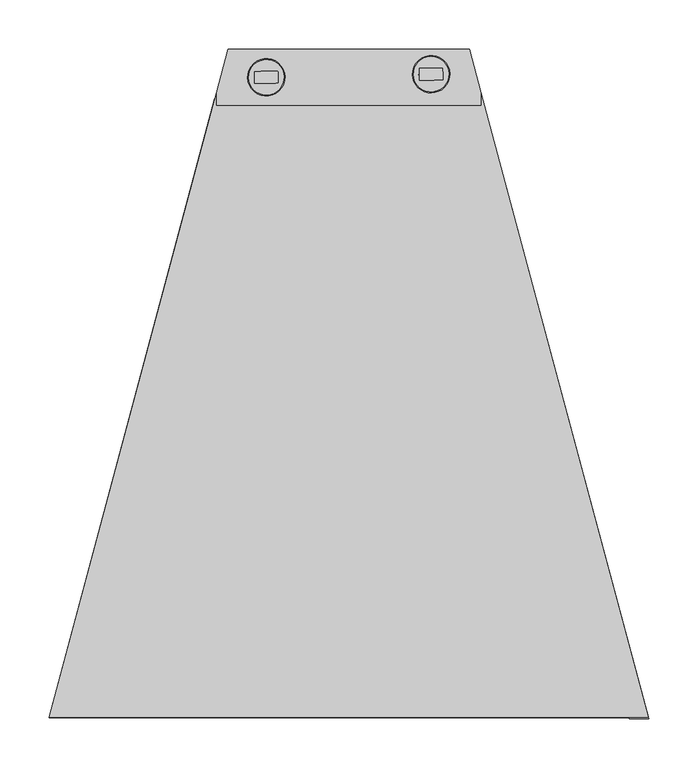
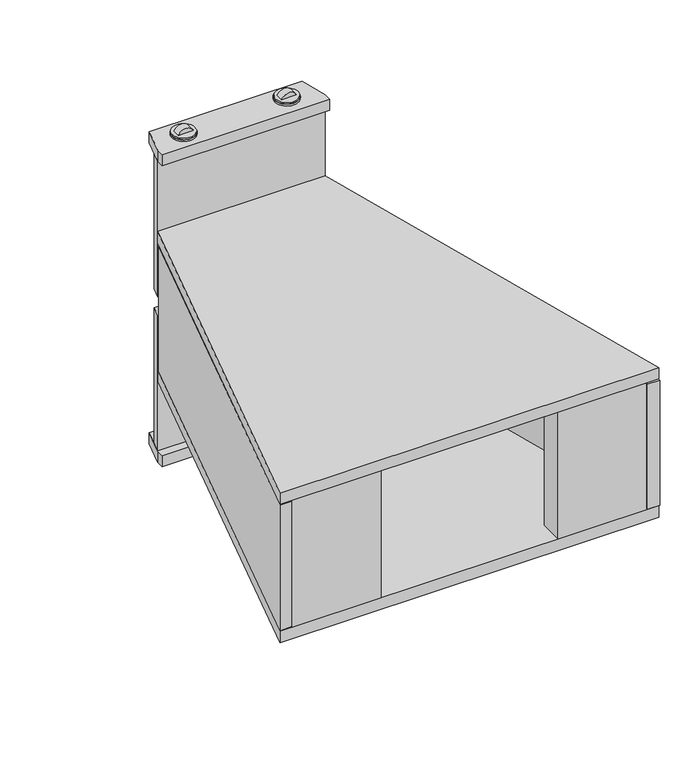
"""IFC4 building model written with IfcOpenShell, lengths in millimetres: proxy geometry, FOUNDATION^TABLE 5_MOBILE WIRE TOWER-ASSEMBLY."""

from ifc_helpers import new_model, si_unit, frame, origin, origin_with_axes, place, context, project, spatial, polyline, circle_curve, outline, extrude, source, transform, mapped, element, save
from ifc_brep_helpers import plane_surface, cylinder_surface, revolved_surface, advanced_brep


def generic_models_fc71b6cc(model_context):
    return source(origin(), model_context, "Body", "SolidModel", [
        extrude(outline(polyline([(427.5419212, 679.45), (439.4522628, 635.0), (439.4522628, 622.3), (170.1477372, 622.3), (170.1477372, 635.0), (182.0580788, 679.45), (427.5419212, 679.45)])), frame((0.0, 0.0, -138.1125), z_axis=(0.0, 0.0, 1.0), x_axis=(1.0, 0.0, 0.0)), (0.0, 0.0, 1.0), 19.05),
        extrude(outline(polyline([(439.4522628, 635.0), (609.6, 0.0), (0.0, 0.0), (170.1477372, 635.0), (439.4522628, 635.0)])), frame((0.0, 0.0, 234.95), z_axis=(0.0, 0.0, 1.0), x_axis=(1.0, 0.0, 0.0)), (0.0, 0.0, 1.0), 19.05),
        extrude(outline(polyline([(590.2258474, -1.298226), (423.0427354, 622.6376422), (441.4436224, 627.568145), (609.9478586, -1.298226), (590.2258474, -1.298226)])), frame((0.0, 0.0, 20.6375), z_axis=(0.0, 0.0, 1.0), x_axis=(1.0, 0.0, 0.0)), (0.0, 0.0, 1.0), 212.725),
        extrude(outline(polyline([(441.9429961, 552.1009087), (423.5421091, 547.1704059), (417.7898559, 568.6381074), (436.1907429, 573.5686102), (441.9429961, 552.1009087)])), frame((0.0, 0.0, 19.05), z_axis=(0.0, 0.0, 1.0), x_axis=(1.0, 0.0, 0.0)), (0.0, 0.0, 1.0), 12.7),
        advanced_brep(
        [(406.6490379, 654.3907169, 395.1125), (406.6490379, 654.3907169, 397.1125), (370.6554878, 653.7092831, 397.1125), (370.6554878, 653.7092831, 395.1125), (407.6488587, 654.4096456, 392.1125), (407.6488587, 654.4096456, 395.1125), (369.6556669, 653.6903544, 395.1125), (369.6556669, 653.6903544, 392.1125)],
        [
            (0, 1),
            (1, 2, circle_curve(frame((388.6522628, 654.05, 397.1125), z_axis=(0.0, 0.0, -1.000000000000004), x_axis=(0.999820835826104, 0.018928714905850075, 0.0)), 18.0)),
            (2, 3),
            (3, 0, circle_curve(frame((388.6522628, 654.05, 395.1125), z_axis=(0.0, 0.0, 1.000000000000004), x_axis=(0.999820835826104, 0.018928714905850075, 0.0)), 18.0)),
            (4, 5),
            (5, 6, circle_curve(frame((388.6522628, 654.05, 395.1125), z_axis=(0.0, 0.0, -1.000000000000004), x_axis=(0.999820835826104, 0.018928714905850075, 0.0)), 19.0)),
            (6, 7),
            (7, 4, circle_curve(frame((388.6522628, 654.05, 392.1125), z_axis=(0.0, 0.0, 1.000000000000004), x_axis=(0.999820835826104, 0.018928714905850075, 0.0)), 19.0)),
            (1, 2, circle_curve(frame((388.6522628, 654.05, 397.1125), z_axis=(0.0, 0.0, 1.000000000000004), x_axis=(0.999820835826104, 0.018928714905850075, 0.0)), 18.0)),
            (7, 4, circle_curve(frame((388.6522628, 654.05, 392.1125), z_axis=(0.0, 0.0, -1.000000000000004), x_axis=(0.999820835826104, 0.018928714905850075, 0.0)), 19.0)),
            (6, 5, circle_curve(frame((388.6522628, 654.05, 395.1125), z_axis=(0.0, 0.0, -1.000000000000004), x_axis=(0.999820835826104, 0.018928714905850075, 0.0)), 19.0)),
            (0, 3, circle_curve(frame((388.6522628, 654.05, 395.1125), z_axis=(0.0, 0.0, 1.000000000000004), x_axis=(0.999820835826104, 0.018928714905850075, 0.0)), 18.0)),
        ],
        [
            cylinder_surface(frame((388.6522628, 654.05, 395.8625), z_axis=(0.0, 0.0, 1.000000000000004), x_axis=(0.999820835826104, 0.018928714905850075, 0.0)), 18.0),
            cylinder_surface(frame((388.6522628, 654.05, 393.6125), z_axis=(0.0, 0.0, 1.000000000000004), x_axis=(0.999820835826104, 0.018928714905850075, 0.0)), 19.0),
            plane_surface(frame((388.6522628, 654.05, 397.1125), z_axis=(0.0, 0.0, 1.000000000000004), x_axis=(0.999820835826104, 0.018928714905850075, 0.0))),
            plane_surface(frame((388.6522628, 654.05, 392.1125), z_axis=(0.0, 0.0, -1.000000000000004), x_axis=(-0.999820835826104, -0.018928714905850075, 0.0))),
            plane_surface(frame((388.6522628, 654.05, 395.1125), z_axis=(0.0, 0.0, 1.000000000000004), x_axis=(0.999820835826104, 0.018928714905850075, 0.0))),
        ],
        [
            (0, [[1, 2, 3, 4]]),
            (1, [[5, 6, 7, 8]]),
            (2, [[-2, 9]]),
            (3, [[10, -8]]),
            (1, [[-5, -10, -7, 11]]),
            (0, [[-1, 12, -3, -9]]),
            (4, [[-6, -11], [-12, -4]]),
        ],
    ),
        advanced_brep(
        [(393.0094912, 661.6338355, 391.6125), (393.0378843, 660.1341042, 391.6125), (384.0394968, 659.9637458, 391.6125), (384.0111037, 661.4634771, 391.6125), (393.2650289, 648.1362542, 391.6125), (393.2934219, 646.6365229, 391.6125), (384.2950344, 646.4661645, 391.6125), (384.2666413, 647.9658958, 391.6125), (402.0362718, 660.3044627, 391.6125), (402.2634164, 648.3066126, 391.6125), (375.2682538, 647.7955373, 391.6125), (375.0411092, 659.7933874, 391.6125)],
        [
            (0, 1),
            (1, 2, circle_curve(frame((388.5386905, 660.048925, 391.6125), z_axis=(-0.018928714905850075, 0.999820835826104, 0.0), x_axis=(0.999820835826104, 0.018928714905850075, 0.0)), 4.5)),
            (2, 3),
            (3, 0, circle_curve(frame((388.5102974, 661.5486563, 391.6125), z_axis=(0.018928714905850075, -0.999820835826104, 0.0), x_axis=(0.999820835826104, 0.018928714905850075, 0.0)), 4.5)),
            (4, 5),
            (5, 6, circle_curve(frame((388.7942282, 646.5513437, 391.6125), z_axis=(-0.018928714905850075, 0.999820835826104, 0.0), x_axis=(0.999820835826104, 0.018928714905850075, 0.0)), 4.5)),
            (6, 7),
            (7, 4, circle_curve(frame((388.7658351, 648.051075, 391.6125), z_axis=(0.018928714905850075, -0.999820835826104, 0.0), x_axis=(0.999820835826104, 0.018928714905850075, 0.0)), 4.5)),
            (8, 9),
            (9, 10, circle_curve(frame((388.7658351, 648.051075, 391.6125), z_axis=(-0.018928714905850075, 0.999820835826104, 0.0), x_axis=(0.999820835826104, 0.018928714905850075, 0.0)), 13.5)),
            (10, 11),
            (11, 8, circle_curve(frame((388.5386905, 660.048925, 391.6125), z_axis=(0.018928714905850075, -0.999820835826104, 0.0), x_axis=(0.999820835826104, 0.018928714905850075, 0.0)), 13.5)),
            (9, 10, circle_curve(frame((388.7658351, 648.051075, 391.6125), z_axis=(0.018928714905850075, -0.999820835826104, 0.0), x_axis=(0.999820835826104, 0.018928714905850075, 0.0)), 13.5)),
            (7, 4, circle_curve(frame((388.7658351, 648.051075, 391.6125), z_axis=(-0.018928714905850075, 0.999820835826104, 0.0), x_axis=(0.999820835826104, 0.018928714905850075, 0.0)), 4.5)),
            (11, 8, circle_curve(frame((388.5386905, 660.048925, 391.6125), z_axis=(-0.018928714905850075, 0.999820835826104, 0.0), x_axis=(0.999820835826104, 0.018928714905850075, 0.0)), 13.5)),
            (1, 2, circle_curve(frame((388.5386905, 660.048925, 391.6125), z_axis=(0.018928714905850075, -0.999820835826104, 0.0), x_axis=(0.999820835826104, 0.018928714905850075, 0.0)), 4.5)),
            (5, 6, circle_curve(frame((388.7942282, 646.5513437, 391.6125), z_axis=(0.018928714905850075, -0.999820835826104, 0.0), x_axis=(0.999820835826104, 0.018928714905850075, 0.0)), 4.5)),
            (3, 0, circle_curve(frame((388.5102974, 661.5486563, 391.6125), z_axis=(-0.018928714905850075, 0.999820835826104, 0.0), x_axis=(0.999820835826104, 0.018928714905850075, 0.0)), 4.5)),
        ],
        [
            cylinder_surface(frame((388.6522628, 654.05, 391.6125), z_axis=(0.018928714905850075, -0.999820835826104, 0.0), x_axis=(0.999820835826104, 0.018928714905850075, 0.0)), 4.5),
            cylinder_surface(frame((388.6522628, 654.05, 391.6125), z_axis=(0.018928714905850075, -0.999820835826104, 0.0), x_axis=(0.999820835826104, 0.018928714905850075, 0.0)), 13.5),
            plane_surface(frame((388.7658351, 648.051075, 391.6125), z_axis=(0.018928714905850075, -0.999820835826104, 0.0), x_axis=(0.999820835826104, 0.018928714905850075, 0.0))),
            plane_surface(frame((388.5386905, 660.048925, 391.6125), z_axis=(-0.018928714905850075, 0.999820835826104, 0.0), x_axis=(-0.999820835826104, -0.018928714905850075, 0.0))),
            plane_surface(frame((388.7942282, 646.5513437, 391.6125), z_axis=(0.018928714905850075, -0.999820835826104, 0.0), x_axis=(0.999820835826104, 0.018928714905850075, 0.0))),
            plane_surface(frame((388.5102974, 661.5486563, 391.6125), z_axis=(-0.018928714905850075, 0.999820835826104, 0.0), x_axis=(-0.999820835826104, -0.018928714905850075, 0.0))),
        ],
        [
            (0, [[1, 2, 3, 4]]),
            (0, [[5, 6, 7, 8]]),
            (1, [[9, 10, 11, 12]]),
            (2, [[-10, 13], [-8, 14]]),
            (3, [[15, -12], [16, -2]]),
            (4, [[-6, 17]]),
            (5, [[18, -4]]),
            (1, [[-9, -15, -11, -13]]),
            (0, [[-5, -14, -7, -17]]),
            (0, [[-1, -18, -3, -16]]),
        ],
    ),
        extrude(outline(polyline([(173.4092571, 573.5686102), (191.8101441, 568.6381074), (186.0578909, 547.1704059), (167.6570039, 552.1009087), (173.4092571, 573.5686102)])), frame((0.0, 0.0, 19.05), z_axis=(0.0, 0.0, 1.0), x_axis=(1.0, 0.0, 0.0)), (0.0, 0.0, 1.0), 12.7),
        extrude(outline(polyline([(19.7220112, 0.0), (29.9308755, 38.1), (162.6088642, 38.1), (162.6088642, 0.0), (19.7220112, 0.0)])), frame((0.0, 0.0, 19.05), z_axis=(0.0, 0.0, 1.0), x_axis=(1.0, 0.0, 0.0)), (0.0, 0.0, 1.0), 215.9),
        advanced_brep(
        [(202.9509621, 650.5342831, -141.1125), (202.9509621, 650.5342831, -143.1125), (238.9445122, 651.2157169, -143.1125), (238.9445122, 651.2157169, -141.1125), (201.9511413, 650.5153544, -138.1125), (201.9511413, 650.5153544, -141.1125), (239.9443331, 651.2346456, -141.1125), (239.9443331, 651.2346456, -138.1125)],
        [
            (0, 1),
            (1, 2, circle_curve(frame((220.9477372, 650.875, -143.1125), z_axis=(0.0, 0.0, 1.0000000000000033), x_axis=(-0.9998208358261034, -0.018928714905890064, 0.0)), 18.0)),
            (2, 3),
            (3, 0, circle_curve(frame((220.9477372, 650.875, -141.1125), z_axis=(0.0, 0.0, -1.0000000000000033), x_axis=(-0.9998208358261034, -0.018928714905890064, 0.0)), 18.0)),
            (4, 5),
            (5, 6, circle_curve(frame((220.9477372, 650.875, -141.1125), z_axis=(0.0, 0.0, 1.0000000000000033), x_axis=(-0.9998208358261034, -0.018928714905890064, 0.0)), 19.0)),
            (6, 7),
            (7, 4, circle_curve(frame((220.9477372, 650.875, -138.1125), z_axis=(0.0, 0.0, -1.0000000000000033), x_axis=(-0.9998208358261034, -0.018928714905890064, 0.0)), 19.0)),
            (1, 2, circle_curve(frame((220.9477372, 650.875, -143.1125), z_axis=(0.0, 0.0, -1.0000000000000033), x_axis=(-0.9998208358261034, -0.018928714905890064, 0.0)), 18.0)),
            (7, 4, circle_curve(frame((220.9477372, 650.875, -138.1125), z_axis=(0.0, 0.0, 1.0000000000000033), x_axis=(-0.9998208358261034, -0.018928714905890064, 0.0)), 19.0)),
            (6, 5, circle_curve(frame((220.9477372, 650.875, -141.1125), z_axis=(0.0, 0.0, 1.0000000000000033), x_axis=(-0.9998208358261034, -0.018928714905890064, 0.0)), 19.0)),
            (0, 3, circle_curve(frame((220.9477372, 650.875, -141.1125), z_axis=(0.0, 0.0, -1.0000000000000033), x_axis=(-0.9998208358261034, -0.018928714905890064, 0.0)), 18.0)),
        ],
        [
            cylinder_surface(frame((220.9477372, 650.875, -141.8625), z_axis=(0.0, 0.0, -1.0000000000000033), x_axis=(-0.9998208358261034, -0.018928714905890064, 0.0)), 18.0),
            cylinder_surface(frame((220.9477372, 650.875, -139.6125), z_axis=(0.0, 0.0, -1.0000000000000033), x_axis=(-0.9998208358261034, -0.018928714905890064, 0.0)), 19.0),
            plane_surface(frame((220.9477372, 650.875, -143.1125), z_axis=(0.0, 0.0, -1.0000000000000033), x_axis=(-0.9998208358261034, -0.018928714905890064, 0.0))),
            plane_surface(frame((220.9477372, 650.875, -138.1125), z_axis=(0.0, 0.0, 1.0000000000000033), x_axis=(0.9998208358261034, 0.018928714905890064, 0.0))),
            plane_surface(frame((220.9477372, 650.875, -141.1125), z_axis=(0.0, 0.0, -1.0000000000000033), x_axis=(-0.9998208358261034, -0.018928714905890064, 0.0))),
        ],
        [
            (0, [[1, 2, 3, 4]]),
            (1, [[5, 6, 7, 8]]),
            (2, [[-2, 9]]),
            (3, [[10, -8]]),
            (1, [[-5, -10, -7, 11]]),
            (0, [[-1, 12, -3, -9]]),
            (4, [[-6, -11], [-12, -4]]),
        ],
    ),
        advanced_brep(
        [(216.3065781, 658.2884771, -137.6125), (216.3349711, 656.7887458, -137.6125), (225.3333587, 656.9591042, -137.6125), (225.3049656, 658.4588355, -137.6125), (216.5621157, 644.7908958, -137.6125), (216.5905088, 643.2911645, -137.6125), (225.5888963, 643.4615229, -137.6125), (225.5605032, 644.9612542, -137.6125), (207.3365836, 656.6183874, -137.6125), (207.5637282, 644.6205373, -137.6125), (234.5588908, 645.1316126, -137.6125), (234.3317462, 657.1294627, -137.6125)],
        [
            (0, 1),
            (1, 2, circle_curve(frame((220.8341649, 656.873925, -137.6125), z_axis=(-0.018928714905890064, 0.9998208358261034, 0.0), x_axis=(-0.9998208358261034, -0.018928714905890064, 0.0)), 4.5)),
            (2, 3),
            (3, 0, circle_curve(frame((220.8057718, 658.3736563, -137.6125), z_axis=(0.018928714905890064, -0.9998208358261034, 0.0), x_axis=(-0.9998208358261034, -0.018928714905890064, 0.0)), 4.5)),
            (4, 5),
            (5, 6, circle_curve(frame((221.0897026, 643.3763437, -137.6125), z_axis=(-0.018928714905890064, 0.9998208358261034, 0.0), x_axis=(-0.9998208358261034, -0.018928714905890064, 0.0)), 4.5)),
            (6, 7),
            (7, 4, circle_curve(frame((221.0613095, 644.876075, -137.6125), z_axis=(0.018928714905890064, -0.9998208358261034, 0.0), x_axis=(-0.9998208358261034, -0.018928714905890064, 0.0)), 4.5)),
            (8, 9),
            (9, 10, circle_curve(frame((221.0613095, 644.876075, -137.6125), z_axis=(-0.018928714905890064, 0.9998208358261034, 0.0), x_axis=(-0.9998208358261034, -0.018928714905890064, 0.0)), 13.5)),
            (10, 11),
            (11, 8, circle_curve(frame((220.8341649, 656.873925, -137.6125), z_axis=(0.018928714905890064, -0.9998208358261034, 0.0), x_axis=(-0.9998208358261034, -0.018928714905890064, 0.0)), 13.5)),
            (9, 10, circle_curve(frame((221.0613095, 644.876075, -137.6125), z_axis=(0.018928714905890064, -0.9998208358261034, 0.0), x_axis=(-0.9998208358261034, -0.018928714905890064, 0.0)), 13.5)),
            (7, 4, circle_curve(frame((221.0613095, 644.876075, -137.6125), z_axis=(-0.018928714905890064, 0.9998208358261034, 0.0), x_axis=(-0.9998208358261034, -0.018928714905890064, 0.0)), 4.5)),
            (11, 8, circle_curve(frame((220.8341649, 656.873925, -137.6125), z_axis=(-0.018928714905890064, 0.9998208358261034, 0.0), x_axis=(-0.9998208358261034, -0.018928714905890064, 0.0)), 13.5)),
            (1, 2, circle_curve(frame((220.8341649, 656.873925, -137.6125), z_axis=(0.018928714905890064, -0.9998208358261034, 0.0), x_axis=(-0.9998208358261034, -0.018928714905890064, 0.0)), 4.5)),
            (5, 6, circle_curve(frame((221.0897026, 643.3763437, -137.6125), z_axis=(0.018928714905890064, -0.9998208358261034, 0.0), x_axis=(-0.9998208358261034, -0.018928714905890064, 0.0)), 4.5)),
            (3, 0, circle_curve(frame((220.8057718, 658.3736563, -137.6125), z_axis=(-0.018928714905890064, 0.9998208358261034, 0.0), x_axis=(-0.9998208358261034, -0.018928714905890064, 0.0)), 4.5)),
        ],
        [
            cylinder_surface(frame((220.9477372, 650.875, -137.6125), z_axis=(0.018928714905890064, -0.9998208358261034, 0.0), x_axis=(-0.9998208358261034, -0.018928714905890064, 0.0)), 4.5),
            cylinder_surface(frame((220.9477372, 650.875, -137.6125), z_axis=(0.018928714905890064, -0.9998208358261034, 0.0), x_axis=(-0.9998208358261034, -0.018928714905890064, 0.0)), 13.5),
            plane_surface(frame((221.0613095, 644.876075, -137.6125), z_axis=(0.018928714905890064, -0.9998208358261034, 0.0), x_axis=(-0.9998208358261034, -0.018928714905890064, 0.0))),
            plane_surface(frame((220.8341649, 656.873925, -137.6125), z_axis=(-0.018928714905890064, 0.9998208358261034, 0.0), x_axis=(0.9998208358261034, 0.018928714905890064, 0.0))),
            plane_surface(frame((221.0897026, 643.3763437, -137.6125), z_axis=(0.018928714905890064, -0.9998208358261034, 0.0), x_axis=(-0.9998208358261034, -0.018928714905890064, 0.0))),
            plane_surface(frame((220.8057718, 658.3736563, -137.6125), z_axis=(-0.018928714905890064, 0.9998208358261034, 0.0), x_axis=(0.9998208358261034, 0.018928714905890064, 0.0))),
        ],
        [
            (0, [[1, 2, 3, 4]]),
            (0, [[5, 6, 7, 8]]),
            (1, [[9, 10, 11, 12]]),
            (2, [[-10, 13], [-8, 14]]),
            (3, [[15, -12], [16, -2]]),
            (4, [[-6, 17]]),
            (5, [[18, -4]]),
            (1, [[-9, -15, -11, -13]]),
            (0, [[-5, -14, -7, -17]]),
            (0, [[-1, -18, -3, -16]]),
        ],
    ),
        extrude(outline(polyline([(19.7220112, 0.0), (0.0, 0.0), (168.5042363, 628.866371), (186.9051232, 623.9358682), (19.7220112, 0.0)])), frame((0.0, 0.0, 20.6375), z_axis=(0.0, 0.0, 1.0), x_axis=(1.0, 0.0, 0.0)), (0.0, 0.0, 1.0), 212.725),
        extrude(outline(polyline([(427.5419212, 679.45), (439.4522628, 635.0), (439.4522628, 622.3), (170.1477372, 622.3), (170.1477372, 635.0), (182.0580788, 679.45), (427.5419212, 679.45)])), frame((0.0, 0.0, 373.0625), z_axis=(0.0, 0.0, 1.0), x_axis=(1.0, 0.0, 0.0)), (0.0, 0.0, 1.0), 19.05),
        extrude(outline(polyline([(423.5421091, 547.1704059), (417.7898559, 568.6381074), (436.1907429, 573.5686102), (441.9429961, 552.1009087), (423.5421091, 547.1704059)])), frame((0.0, 0.0, 222.25), z_axis=(0.0, 0.0, 1.0), x_axis=(1.0, 0.0, 0.0)), (0.0, 0.0, 1.0), 12.7),
        advanced_brep(
        [(175.2521693, 654.05, 111.125), (192.3727372, 654.05, 111.125), (192.3727372, 654.05, 142.875), (175.2521693, 654.05, 142.875), (175.2521693, 654.05, 373.0625), (434.3478307, 654.05, 373.0625), (434.3478307, 654.05, 142.875), (417.2272628, 654.05, 142.875), (417.2272628, 654.05, 111.125), (434.3478307, 654.05, 111.125), (434.3478307, 654.05, -119.0625), (175.2521693, 654.05, -119.0625), (192.3727372, 635.0, 111.125), (170.1477372, 635.0, 111.125), (170.1477372, 635.0, -119.0625), (439.4522628, 635.0, -119.0625), (439.4522628, 635.0, 111.125), (417.2272628, 635.0, 111.125), (417.2272628, 635.0, 142.875), (439.4522628, 635.0, 142.875), (439.4522628, 635.0, 373.0625), (170.1477372, 635.0, 373.0625), (170.1477372, 635.0, 142.875), (192.3727372, 635.0, 142.875)],
        [
            (0, 1),
            (1, 2, circle_curve(frame((192.3727372, 654.05, 127.0), z_axis=(0.0, -1.0, 0.0), x_axis=(0.0, 0.0, 1.0)), 15.875)),
            (2, 3),
            (3, 4),
            (4, 5),
            (5, 6),
            (6, 7),
            (7, 8, circle_curve(frame((417.2272628, 654.05, 127.0), z_axis=(0.0, -1.0, 0.0), x_axis=(0.0, 0.0, -1.0)), 15.875)),
            (8, 9),
            (9, 10),
            (10, 11),
            (11, 0),
            (12, 13),
            (13, 14),
            (14, 15),
            (15, 16),
            (16, 17),
            (17, 18, circle_curve(frame((417.2272628, 635.0, 127.0), z_axis=(0.0, 1.0, 0.0), x_axis=(0.0, 0.0, -1.0)), 15.875)),
            (18, 19),
            (19, 20),
            (20, 21),
            (21, 22),
            (22, 23),
            (23, 12, circle_curve(frame((192.3727372, 635.0, 127.0), z_axis=(0.0, 1.0, 0.0), x_axis=(0.0, 0.0, 1.0)), 15.875)),
            (23, 2),
            (1, 12),
            (22, 3),
            (0, 13),
            (17, 8),
            (7, 18),
            (16, 9),
            (6, 19),
            (21, 4),
            (15, 10),
            (5, 20),
            (11, 14),
        ],
        [
            plane_surface(frame((304.8, 654.05, 127.0), z_axis=(0.0, 1.0, 0.0), x_axis=(0.0, 0.0, 1.0))),
            plane_surface(frame((304.8, 635.0, 127.0), z_axis=(0.0, -1.0, 0.0), x_axis=(0.0, 0.0, 1.0))),
            revolved_surface(polyline([(192.3727372, 635.0, 142.875), (192.3727372, 654.05, 142.875)]), (192.3727372, 654.05, 127.0), (0.0, -1.0, 0.0)),
            plane_surface(frame((192.3727372, 654.05, 142.875), z_axis=(0.0, 0.0, -1.0), x_axis=(-1.0, 0.0, 0.0))),
            plane_surface(frame((170.1477372, 654.05, 111.125), z_axis=(0.0, 0.0, 1.0), x_axis=(1.0, 0.0, 0.0))),
            revolved_surface(polyline([(417.2272628, 635.0, 111.125), (417.2272628, 654.05, 111.125)]), (417.2272628, 654.05, 127.0), (0.0, -1.0, 0.0)),
            plane_surface(frame((417.2272628, 654.05, 111.125), z_axis=(0.0, 0.0, 1.0), x_axis=(1.0, 0.0, 0.0))),
            plane_surface(frame((439.4522628, 654.05, 142.875), z_axis=(0.0, 0.0, -1.0), x_axis=(-1.0, 0.0, 0.0))),
            plane_surface(frame((182.0580788, 679.45, 392.1125), z_axis=(-0.9659258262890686, 0.2588190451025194, 0.0), x_axis=(-0.2588190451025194, -0.9659258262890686, 0.0))),
            plane_surface(frame((439.4522628, 635.0, 392.1125), z_axis=(0.9659258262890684, 0.2588190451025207, 0.0), x_axis=(-0.2588190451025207, 0.9659258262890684, 0.0))),
            plane_surface(frame((304.8, 644.525, -119.0625), z_axis=(0.0, 0.0, -1.0), x_axis=(1.0, 0.0, 0.0))),
            plane_surface(frame((304.8, 644.525, 373.0625), z_axis=(0.0, 0.0, 1.0), x_axis=(-1.0, 0.0, 0.0))),
        ],
        [
            (0, [[1, 2, 3, 4, 5, 6, 7, 8, 9, 10, 11, 12]]),
            (1, [[13, 14, 15, 16, 17, 18, 19, 20, 21, 22, 23, 24]]),
            (2, [[-24, 25, -2, 26]]),
            (3, [[-23, 27, -3, -25]]),
            (4, [[28, -13, -26, -1]]),
            (5, [[-18, 29, -8, 30]]),
            (6, [[-17, 31, -9, -29]]),
            (7, [[32, -19, -30, -7]]),
            (8, [[-27, -22, 33, -4]]),
            (9, [[-31, -16, 34, -10]]),
            (9, [[-32, -6, 35, -20]]),
            (8, [[-28, -12, 36, -14]]),
            (10, [[-34, -15, -36, -11]]),
            (11, [[-35, -5, -33, -21]]),
        ],
    ),
        advanced_brep(
        [(370.6554878, 653.7092831, -141.1125), (370.6554878, 653.7092831, -143.1125), (406.6490379, 654.3907169, -143.1125), (406.6490379, 654.3907169, -141.1125), (369.6556669, 653.6903544, -138.1125), (369.6556669, 653.6903544, -141.1125), (407.6488587, 654.4096456, -141.1125), (407.6488587, 654.4096456, -138.1125)],
        [
            (0, 1),
            (1, 2, circle_curve(frame((388.6522628, 654.05, -143.1125), z_axis=(0.0, 0.0, 1.0000000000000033), x_axis=(-0.9998208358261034, -0.018928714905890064, 0.0)), 18.0)),
            (2, 3),
            (3, 0, circle_curve(frame((388.6522628, 654.05, -141.1125), z_axis=(0.0, 0.0, -1.0000000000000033), x_axis=(-0.9998208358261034, -0.018928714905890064, 0.0)), 18.0)),
            (4, 5),
            (5, 6, circle_curve(frame((388.6522628, 654.05, -141.1125), z_axis=(0.0, 0.0, 1.0000000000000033), x_axis=(-0.9998208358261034, -0.018928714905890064, 0.0)), 19.0)),
            (6, 7),
            (7, 4, circle_curve(frame((388.6522628, 654.05, -138.1125), z_axis=(0.0, 0.0, -1.0000000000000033), x_axis=(-0.9998208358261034, -0.018928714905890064, 0.0)), 19.0)),
            (1, 2, circle_curve(frame((388.6522628, 654.05, -143.1125), z_axis=(0.0, 0.0, -1.0000000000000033), x_axis=(-0.9998208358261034, -0.018928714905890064, 0.0)), 18.0)),
            (7, 4, circle_curve(frame((388.6522628, 654.05, -138.1125), z_axis=(0.0, 0.0, 1.0000000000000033), x_axis=(-0.9998208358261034, -0.018928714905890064, 0.0)), 19.0)),
            (6, 5, circle_curve(frame((388.6522628, 654.05, -141.1125), z_axis=(0.0, 0.0, 1.0000000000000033), x_axis=(-0.9998208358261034, -0.018928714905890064, 0.0)), 19.0)),
            (0, 3, circle_curve(frame((388.6522628, 654.05, -141.1125), z_axis=(0.0, 0.0, -1.0000000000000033), x_axis=(-0.9998208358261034, -0.018928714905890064, 0.0)), 18.0)),
        ],
        [
            cylinder_surface(frame((388.6522628, 654.05, -141.8625), z_axis=(0.0, 0.0, -1.0000000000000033), x_axis=(-0.9998208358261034, -0.018928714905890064, 0.0)), 18.0),
            cylinder_surface(frame((388.6522628, 654.05, -139.6125), z_axis=(0.0, 0.0, -1.0000000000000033), x_axis=(-0.9998208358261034, -0.018928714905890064, 0.0)), 19.0),
            plane_surface(frame((388.6522628, 654.05, -143.1125), z_axis=(0.0, 0.0, -1.0000000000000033), x_axis=(-0.9998208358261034, -0.018928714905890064, 0.0))),
            plane_surface(frame((388.6522628, 654.05, -138.1125), z_axis=(0.0, 0.0, 1.0000000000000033), x_axis=(0.9998208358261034, 0.018928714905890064, 0.0))),
            plane_surface(frame((388.6522628, 654.05, -141.1125), z_axis=(0.0, 0.0, -1.0000000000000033), x_axis=(-0.9998208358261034, -0.018928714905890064, 0.0))),
        ],
        [
            (0, [[1, 2, 3, 4]]),
            (1, [[5, 6, 7, 8]]),
            (2, [[-2, 9]]),
            (3, [[10, -8]]),
            (1, [[-5, -10, -7, 11]]),
            (0, [[-1, 12, -3, -9]]),
            (4, [[-6, -11], [-12, -4]]),
        ],
    ),
        advanced_brep(
        [(384.0111037, 661.4634771, -137.6125), (384.0394968, 659.9637458, -137.6125), (393.0378843, 660.1341042, -137.6125), (393.0094912, 661.6338355, -137.6125), (384.2666413, 647.9658958, -137.6125), (384.2950344, 646.4661645, -137.6125), (393.2934219, 646.6365229, -137.6125), (393.2650289, 648.1362542, -137.6125), (375.0411092, 659.7933874, -137.6125), (375.2682538, 647.7955373, -137.6125), (402.2634164, 648.3066126, -137.6125), (402.0362718, 660.3044627, -137.6125)],
        [
            (0, 1),
            (1, 2, circle_curve(frame((388.5386905, 660.048925, -137.6125), z_axis=(-0.018928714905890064, 0.9998208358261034, 0.0), x_axis=(-0.9998208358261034, -0.018928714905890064, 0.0)), 4.5)),
            (2, 3),
            (3, 0, circle_curve(frame((388.5102974, 661.5486563, -137.6125), z_axis=(0.018928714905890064, -0.9998208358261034, 0.0), x_axis=(-0.9998208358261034, -0.018928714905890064, 0.0)), 4.5)),
            (4, 5),
            (5, 6, circle_curve(frame((388.7942282, 646.5513437, -137.6125), z_axis=(-0.018928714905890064, 0.9998208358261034, 0.0), x_axis=(-0.9998208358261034, -0.018928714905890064, 0.0)), 4.5)),
            (6, 7),
            (7, 4, circle_curve(frame((388.7658351, 648.051075, -137.6125), z_axis=(0.018928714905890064, -0.9998208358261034, 0.0), x_axis=(-0.9998208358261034, -0.018928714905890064, 0.0)), 4.5)),
            (8, 9),
            (9, 10, circle_curve(frame((388.7658351, 648.051075, -137.6125), z_axis=(-0.018928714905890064, 0.9998208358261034, 0.0), x_axis=(-0.9998208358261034, -0.018928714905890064, 0.0)), 13.5)),
            (10, 11),
            (11, 8, circle_curve(frame((388.5386905, 660.048925, -137.6125), z_axis=(0.018928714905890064, -0.9998208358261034, 0.0), x_axis=(-0.9998208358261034, -0.018928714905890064, 0.0)), 13.5)),
            (9, 10, circle_curve(frame((388.7658351, 648.051075, -137.6125), z_axis=(0.018928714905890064, -0.9998208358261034, 0.0), x_axis=(-0.9998208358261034, -0.018928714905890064, 0.0)), 13.5)),
            (7, 4, circle_curve(frame((388.7658351, 648.051075, -137.6125), z_axis=(-0.018928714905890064, 0.9998208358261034, 0.0), x_axis=(-0.9998208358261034, -0.018928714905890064, 0.0)), 4.5)),
            (11, 8, circle_curve(frame((388.5386905, 660.048925, -137.6125), z_axis=(-0.018928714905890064, 0.9998208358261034, 0.0), x_axis=(-0.9998208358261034, -0.018928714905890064, 0.0)), 13.5)),
            (1, 2, circle_curve(frame((388.5386905, 660.048925, -137.6125), z_axis=(0.018928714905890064, -0.9998208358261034, 0.0), x_axis=(-0.9998208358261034, -0.018928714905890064, 0.0)), 4.5)),
            (5, 6, circle_curve(frame((388.7942282, 646.5513437, -137.6125), z_axis=(0.018928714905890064, -0.9998208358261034, 0.0), x_axis=(-0.9998208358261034, -0.018928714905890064, 0.0)), 4.5)),
            (3, 0, circle_curve(frame((388.5102974, 661.5486563, -137.6125), z_axis=(-0.018928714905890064, 0.9998208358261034, 0.0), x_axis=(-0.9998208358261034, -0.018928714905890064, 0.0)), 4.5)),
        ],
        [
            cylinder_surface(frame((388.6522628, 654.05, -137.6125), z_axis=(0.018928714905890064, -0.9998208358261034, 0.0), x_axis=(-0.9998208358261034, -0.018928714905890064, 0.0)), 4.5),
            cylinder_surface(frame((388.6522628, 654.05, -137.6125), z_axis=(0.018928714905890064, -0.9998208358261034, 0.0), x_axis=(-0.9998208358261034, -0.018928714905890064, 0.0)), 13.5),
            plane_surface(frame((388.7658351, 648.051075, -137.6125), z_axis=(0.018928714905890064, -0.9998208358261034, 0.0), x_axis=(-0.9998208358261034, -0.018928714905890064, 0.0))),
            plane_surface(frame((388.5386905, 660.048925, -137.6125), z_axis=(-0.018928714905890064, 0.9998208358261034, 0.0), x_axis=(0.9998208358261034, 0.018928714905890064, 0.0))),
            plane_surface(frame((388.7942282, 646.5513437, -137.6125), z_axis=(0.018928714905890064, -0.9998208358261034, 0.0), x_axis=(-0.9998208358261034, -0.018928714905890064, 0.0))),
            plane_surface(frame((388.5102974, 661.5486563, -137.6125), z_axis=(-0.018928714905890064, 0.9998208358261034, 0.0), x_axis=(0.9998208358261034, 0.018928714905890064, 0.0))),
        ],
        [
            (0, [[1, 2, 3, 4]]),
            (0, [[5, 6, 7, 8]]),
            (1, [[9, 10, 11, 12]]),
            (2, [[-10, 13], [-8, 14]]),
            (3, [[15, -12], [16, -2]]),
            (4, [[-6, 17]]),
            (5, [[18, -4]]),
            (1, [[-9, -15, -11, -13]]),
            (0, [[-5, -14, -7, -17]]),
            (0, [[-1, -18, -3, -16]]),
        ],
    ),
        extrude(outline(polyline([(48.6471266, 107.95), (56.8960208, 138.7352923), (79.1745731, 134.8069825), (73.6612435, 103.5393363), (48.6471266, 107.95)])), frame((0.0, 0.0, 25.4), z_axis=(0.0, 0.0, 1.0), x_axis=(1.0, 0.0, 0.0)), (0.0, 0.0, 1.0), 203.2),
        advanced_brep(
        [(238.9445122, 651.2157169, 395.1125), (238.9445122, 651.2157169, 397.1125), (202.9509621, 650.5342831, 397.1125), (202.9509621, 650.5342831, 395.1125), (239.9443331, 651.2346456, 392.1125), (239.9443331, 651.2346456, 395.1125), (201.9511413, 650.5153544, 395.1125), (201.9511413, 650.5153544, 392.1125)],
        [
            (0, 1),
            (1, 2, circle_curve(frame((220.9477372, 650.875, 397.1125), z_axis=(0.0, 0.0, -1.0000000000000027), x_axis=(0.9998208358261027, 0.01892871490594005, 0.0)), 18.0)),
            (2, 3),
            (3, 0, circle_curve(frame((220.9477372, 650.875, 395.1125), z_axis=(0.0, 0.0, 1.0000000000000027), x_axis=(0.9998208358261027, 0.01892871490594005, 0.0)), 18.0)),
            (4, 5),
            (5, 6, circle_curve(frame((220.9477372, 650.875, 395.1125), z_axis=(0.0, 0.0, -1.0000000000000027), x_axis=(0.9998208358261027, 0.01892871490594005, 0.0)), 19.0)),
            (6, 7),
            (7, 4, circle_curve(frame((220.9477372, 650.875, 392.1125), z_axis=(0.0, 0.0, 1.0000000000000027), x_axis=(0.9998208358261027, 0.01892871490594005, 0.0)), 19.0)),
            (1, 2, circle_curve(frame((220.9477372, 650.875, 397.1125), z_axis=(0.0, 0.0, 1.0000000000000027), x_axis=(0.9998208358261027, 0.01892871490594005, 0.0)), 18.0)),
            (7, 4, circle_curve(frame((220.9477372, 650.875, 392.1125), z_axis=(0.0, 0.0, -1.0000000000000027), x_axis=(0.9998208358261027, 0.01892871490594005, 0.0)), 19.0)),
            (6, 5, circle_curve(frame((220.9477372, 650.875, 395.1125), z_axis=(0.0, 0.0, -1.0000000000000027), x_axis=(0.9998208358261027, 0.01892871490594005, 0.0)), 19.0)),
            (0, 3, circle_curve(frame((220.9477372, 650.875, 395.1125), z_axis=(0.0, 0.0, 1.0000000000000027), x_axis=(0.9998208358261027, 0.01892871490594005, 0.0)), 18.0)),
        ],
        [
            cylinder_surface(frame((220.9477372, 650.875, 395.8625), z_axis=(0.0, 0.0, 1.0000000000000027), x_axis=(0.9998208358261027, 0.01892871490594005, 0.0)), 18.0),
            cylinder_surface(frame((220.9477372, 650.875, 393.6125), z_axis=(0.0, 0.0, 1.0000000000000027), x_axis=(0.9998208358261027, 0.01892871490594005, 0.0)), 19.0),
            plane_surface(frame((220.9477372, 650.875, 397.1125), z_axis=(0.0, 0.0, 1.0000000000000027), x_axis=(0.9998208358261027, 0.01892871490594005, 0.0))),
            plane_surface(frame((220.9477372, 650.875, 392.1125), z_axis=(0.0, 0.0, -1.0000000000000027), x_axis=(-0.9998208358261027, -0.01892871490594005, 0.0))),
            plane_surface(frame((220.9477372, 650.875, 395.1125), z_axis=(0.0, 0.0, 1.0000000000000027), x_axis=(0.9998208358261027, 0.01892871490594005, 0.0))),
        ],
        [
            (0, [[1, 2, 3, 4]]),
            (1, [[5, 6, 7, 8]]),
            (2, [[-2, 9]]),
            (3, [[10, -8]]),
            (1, [[-5, -10, -7, 11]]),
            (0, [[-1, 12, -3, -9]]),
            (4, [[-6, -11], [-12, -4]]),
        ],
    ),
        advanced_brep(
        [(225.3049656, 658.4588355, 391.6125), (225.3333587, 656.9591042, 391.6125), (216.3349711, 656.7887458, 391.6125), (216.3065781, 658.2884771, 391.6125), (225.5605032, 644.9612542, 391.6125), (225.5888963, 643.4615229, 391.6125), (216.5905088, 643.2911645, 391.6125), (216.5621157, 644.7908958, 391.6125), (234.3317462, 657.1294627, 391.6125), (234.5588908, 645.1316126, 391.6125), (207.5637282, 644.6205373, 391.6125), (207.3365836, 656.6183874, 391.6125)],
        [
            (0, 1),
            (1, 2, circle_curve(frame((220.8341649, 656.873925, 391.6125), z_axis=(-0.01892871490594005, 0.9998208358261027, 0.0), x_axis=(0.9998208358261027, 0.01892871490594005, 0.0)), 4.5)),
            (2, 3),
            (3, 0, circle_curve(frame((220.8057718, 658.3736563, 391.6125), z_axis=(0.01892871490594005, -0.9998208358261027, 0.0), x_axis=(0.9998208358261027, 0.01892871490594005, 0.0)), 4.5)),
            (4, 5),
            (5, 6, circle_curve(frame((221.0897026, 643.3763437, 391.6125), z_axis=(-0.01892871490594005, 0.9998208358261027, 0.0), x_axis=(0.9998208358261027, 0.01892871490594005, 0.0)), 4.5)),
            (6, 7),
            (7, 4, circle_curve(frame((221.0613095, 644.876075, 391.6125), z_axis=(0.01892871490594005, -0.9998208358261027, 0.0), x_axis=(0.9998208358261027, 0.01892871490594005, 0.0)), 4.5)),
            (8, 9),
            (9, 10, circle_curve(frame((221.0613095, 644.876075, 391.6125), z_axis=(-0.01892871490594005, 0.9998208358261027, 0.0), x_axis=(0.9998208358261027, 0.01892871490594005, 0.0)), 13.5)),
            (10, 11),
            (11, 8, circle_curve(frame((220.8341649, 656.873925, 391.6125), z_axis=(0.01892871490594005, -0.9998208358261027, 0.0), x_axis=(0.9998208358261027, 0.01892871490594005, 0.0)), 13.5)),
            (9, 10, circle_curve(frame((221.0613095, 644.876075, 391.6125), z_axis=(0.01892871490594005, -0.9998208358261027, 0.0), x_axis=(0.9998208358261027, 0.01892871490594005, 0.0)), 13.5)),
            (7, 4, circle_curve(frame((221.0613095, 644.876075, 391.6125), z_axis=(-0.01892871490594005, 0.9998208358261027, 0.0), x_axis=(0.9998208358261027, 0.01892871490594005, 0.0)), 4.5)),
            (11, 8, circle_curve(frame((220.8341649, 656.873925, 391.6125), z_axis=(-0.01892871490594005, 0.9998208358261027, 0.0), x_axis=(0.9998208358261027, 0.01892871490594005, 0.0)), 13.5)),
            (1, 2, circle_curve(frame((220.8341649, 656.873925, 391.6125), z_axis=(0.01892871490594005, -0.9998208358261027, 0.0), x_axis=(0.9998208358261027, 0.01892871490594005, 0.0)), 4.5)),
            (5, 6, circle_curve(frame((221.0897026, 643.3763437, 391.6125), z_axis=(0.01892871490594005, -0.9998208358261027, 0.0), x_axis=(0.9998208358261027, 0.01892871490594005, 0.0)), 4.5)),
            (3, 0, circle_curve(frame((220.8057718, 658.3736563, 391.6125), z_axis=(-0.01892871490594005, 0.9998208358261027, 0.0), x_axis=(0.9998208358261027, 0.01892871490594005, 0.0)), 4.5)),
        ],
        [
            cylinder_surface(frame((220.9477372, 650.875, 391.6125), z_axis=(0.01892871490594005, -0.9998208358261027, 0.0), x_axis=(0.9998208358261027, 0.01892871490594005, 0.0)), 4.5),
            cylinder_surface(frame((220.9477372, 650.875, 391.6125), z_axis=(0.01892871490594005, -0.9998208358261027, 0.0), x_axis=(0.9998208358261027, 0.01892871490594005, 0.0)), 13.5),
            plane_surface(frame((221.0613095, 644.876075, 391.6125), z_axis=(0.01892871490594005, -0.9998208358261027, 0.0), x_axis=(0.9998208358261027, 0.01892871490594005, 0.0))),
            plane_surface(frame((220.8341649, 656.873925, 391.6125), z_axis=(-0.01892871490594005, 0.9998208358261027, 0.0), x_axis=(-0.9998208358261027, -0.01892871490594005, 0.0))),
            plane_surface(frame((221.0897026, 643.3763437, 391.6125), z_axis=(0.01892871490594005, -0.9998208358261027, 0.0), x_axis=(0.9998208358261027, 0.01892871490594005, 0.0))),
            plane_surface(frame((220.8057718, 658.3736563, 391.6125), z_axis=(-0.01892871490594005, 0.9998208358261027, 0.0), x_axis=(-0.9998208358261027, -0.01892871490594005, 0.0))),
        ],
        [
            (0, [[1, 2, 3, 4]]),
            (0, [[5, 6, 7, 8]]),
            (1, [[9, 10, 11, 12]]),
            (2, [[-10, 13], [-8, 14]]),
            (3, [[15, -12], [16, -2]]),
            (4, [[-6, 17]]),
            (5, [[18, -4]]),
            (1, [[-9, -15, -11, -13]]),
            (0, [[-5, -14, -7, -17]]),
            (0, [[-1, -18, -3, -16]]),
        ],
    ),
        extrude(outline(polyline([(609.6, 0.0), (0.0, 0.0), (170.1477372, 635.0), (439.4522628, 635.0), (609.6, 0.0)])), origin_with_axes(), (0.0, 0.0, 1.0), 19.05),
        extrude(outline(polyline([(190.1666432, 562.5044784), (184.4143899, 541.0367769), (166.0135029, 545.9672797), (171.7657562, 567.4349812), (190.1666432, 562.5044784)])), frame((0.0, 0.0, 222.25), z_axis=(0.0, 0.0, 1.0), x_axis=(1.0, 0.0, 0.0)), (0.0, 0.0, 1.0), 12.7),
        extrude(outline(polyline([(579.6691245, 38.1), (589.8779888, 0.0), (446.9911358, 0.0), (446.9911358, 38.1), (579.6691245, 38.1)])), frame((0.0, 0.0, 19.05), z_axis=(0.0, 0.0, 1.0), x_axis=(1.0, 0.0, 0.0)), (0.0, 0.0, 1.0), 215.9),
    ])


if __name__ == "__main__":
    model = new_model("IFC4")
    model_context = context("Model", 3, world=origin())
    ifc_project = project(units=[si_unit("LENGTHUNIT", "METRE", prefix="MILLI")], contexts=[model_context])
    site = spatial("IfcSite", under=ifc_project)
    building = spatial("IfcBuilding", under=site)
    placement = place(None, origin())
    generic_models_shape = generic_models_fc71b6cc(model_context)
    element("IfcBuildingElementProxy", 1, Name="FOUNDATION^TABLE 5_MOBILE WIRE TOWER-ASSEMBLY", ObjectType="FOUNDATION^TABLE 5_MOBILE WIRE TOWER-ASSEMBLY", at=placement, inside=building, context=model_context, shape_type="MappedRepresentation", body=[
        mapped(generic_models_shape, transform((0.0, 0.0, 0.0), x_axis=(1.0, 0.0, 0.0), y_axis=(0.0, 1.0, 0.0), z_axis=(0.0, 0.0, 1.0))),
    ])
    save(model, "model.ifc")
